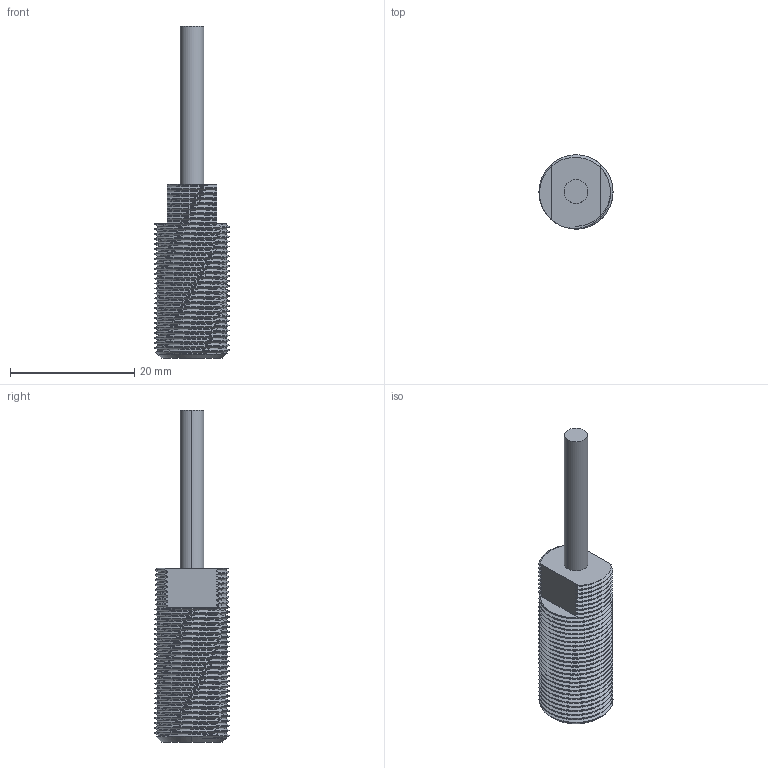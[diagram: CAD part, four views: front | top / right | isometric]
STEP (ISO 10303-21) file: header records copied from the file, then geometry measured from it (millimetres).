
FILE_DESCRIPTION (( 'STEP AP203' ), '1' );
FILE_NAME ('2S.STEP', '2010-03-05T18:49:25', ( 'tom edwards' ), ( 'Tom J. Edwards' ), 'SwSTEP 2.0', 'SolidWorks 2008', '' );
FILE_SCHEMA (( 'CONFIG_CONTROL_DESIGN' ));
Products named in the file (1): 2S
Bounding box: 11.91 x 11.9 x 53.34 mm (x, y, z)
Volume: 3013.8 mm3; surface area: 2019.6 mm2
Topology: 1 solids, 1 shells, 131 faces, 384 edges, 256 vertices
Faces by surface type: cylinder 71, bspline 51, plane 7, cone 2
Entity records: 71526 total; most frequent: CARTESIAN_POINT 68925, ORIENTED_EDGE 768, EDGE_CURVE 384, DIRECTION 273, VERTEX_POINT 256, EDGE_LOOP 132, FACE_OUTER_BOUND 131, ADVANCED_FACE 131
